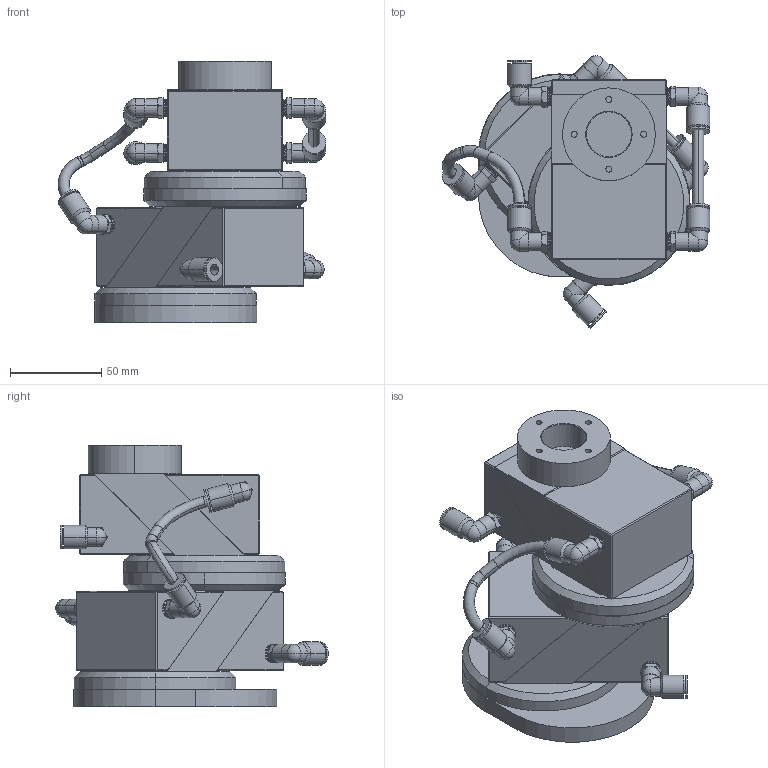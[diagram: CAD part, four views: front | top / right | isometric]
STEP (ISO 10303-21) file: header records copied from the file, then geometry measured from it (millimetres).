
FILE_DESCRIPTION (( 'STEP AP214' ), '1' );
FILE_NAME ('BQE-19-10.6-SYN45.STEP', '2017-01-06T16:12:49', ( '' ), ( '' ), 'SwSTEP 2.0', 'SolidWorks 2017', '' );
FILE_SCHEMA (( 'AUTOMOTIVE_DESIGN' ));
Length unit declared in the file: inch
Products named in the file (1): BQE-19-10.6-SYN45
Bounding box: 146.59 x 149.14 x 143.26 mm (x, y, z)
Volume: 829522.1 mm3; surface area: 182027 mm2
Topology: 23 solids, 23 shells, 1233 faces, 2646 edges, 1564 vertices
Faces by surface type: cone 392, plane 351, cylinder 342, torus 76, bspline 56, sphere 16
Entity records: 37606 total; most frequent: CARTESIAN_POINT 10500, DIRECTION 5926, ORIENTED_EDGE 5260, EDGE_CURVE 2630, AXIS2_PLACEMENT_3D 2366, VERTEX_POINT 1564, EDGE_LOOP 1364, FACE_OUTER_BOUND 1233
